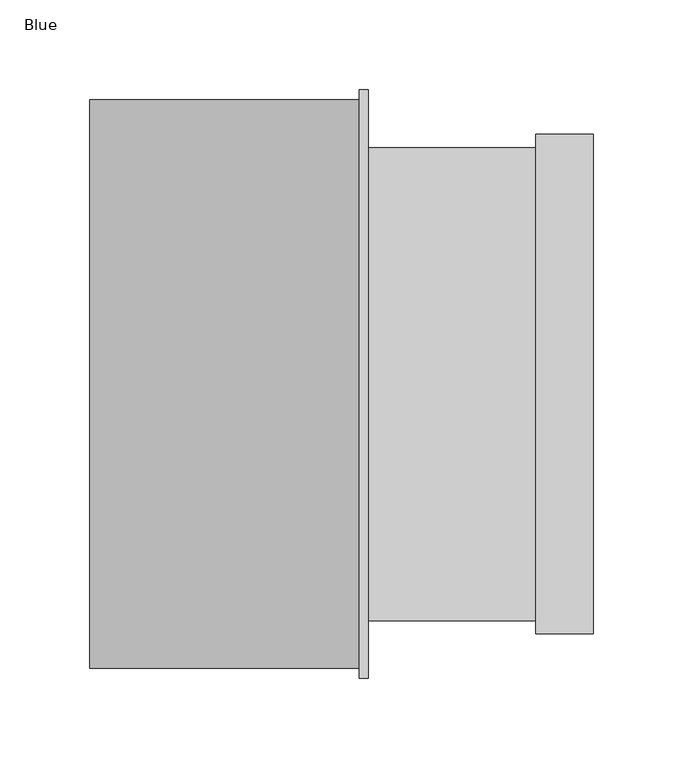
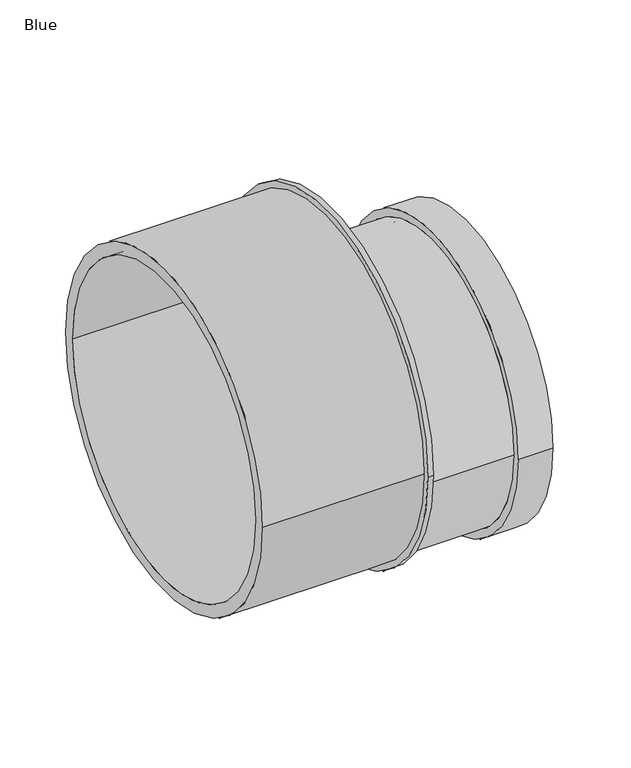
"""IFC4 building model written with IfcOpenShell, lengths in millimetres: pipe fitting geometry, AWADUKT PP Transition : Blue."""

from ifc_helpers import new_model, si_unit, point, frame, frame_2d, origin, origin_2d, place, context, project, spatial, polyline, circle_curve, trimmed, segment, composite_curve, outline, extrude, source, transform, mapped, element, save
from ifc_brep_helpers import plane_surface, cylinder_surface, revolved_surface, advanced_brep


def blue_93814ad8(model_context):
    return source(origin(), model_context, "Body", "SolidModel", [
        extrude(outline(composite_curve([segment(trimmed(circle_curve(origin_2d(), 163.65), [point((-163.65, 0.0))], [point((163.65, 0.0))], False, "CARTESIAN"), True, "CONTINUOUS"), segment(trimmed(circle_curve(origin_2d(), 163.65), [point((163.65, 0.0))], [point((-163.65, 0.0))], False, "CARTESIAN"), True, "CONTINUOUS")], self_intersect=False), holes=[composite_curve([segment(trimmed(circle_curve(frame_2d((0.0, -31.7)), 116.4), [point((-116.4, -31.7))], [point((116.4, -31.7))], True, "CARTESIAN"), True, "CONTINUOUS"), segment(trimmed(circle_curve(frame_2d((0.0, -31.7)), 116.4), [point((116.4, -31.7))], [point((-116.4, -31.7))], True, "CARTESIAN"), True, "CONTINUOUS")], self_intersect=False)]), frame((157.0, 0.0, 0.0), z_axis=(1.0, 0.0, 0.0), x_axis=(0.0, 1.0, 0.0)), (0.0, 0.0, 1.0), 5.0),
        advanced_brep(
        [(255.0, -131.6, -31.7), (255.0, 131.6, -31.7), (162.0, 131.6, -31.7), (162.0, -131.6, -31.7), (287.0, -138.9, -31.7), (287.0, 138.9, -31.7), (255.0, 138.9, -31.7), (255.0, -138.9, -31.7), (280.4, -125.0, -31.7), (280.4, 125.0, -31.7), (287.0, 125.0, -31.7), (287.0, -125.0, -31.7), (261.6, -131.6, -31.7), (261.6, 131.6, -31.7), (280.4, 131.6, -31.7), (280.4, -131.6, -31.7), (162.0, -125.0, -31.7), (162.0, 125.0, -31.7), (261.6, 125.0, -31.7), (261.6, -125.0, -31.7)],
        [
            (0, 1, circle_curve(frame((255.0, 0.0, -31.7), z_axis=(-1.0, 0.0, 0.0), x_axis=(0.0, 1.0, 0.0)), 131.6)),
            (1, 2),
            (2, 3, circle_curve(frame((162.0, 0.0, -31.7), z_axis=(1.0, 0.0, 0.0), x_axis=(0.0, 1.0, 0.0)), 131.6)),
            (3, 0),
            (4, 5, circle_curve(frame((287.0, 0.0, -31.7), z_axis=(-1.0, 0.0, 0.0), x_axis=(0.0, 1.0, 0.0)), 138.9)),
            (5, 6),
            (6, 7, circle_curve(frame((255.0, 0.0, -31.7), z_axis=(1.0, 0.0, 0.0), x_axis=(0.0, 1.0, 0.0)), 138.9)),
            (7, 4),
            (8, 9, circle_curve(frame((280.4, 0.0, -31.7), z_axis=(-1.0, 0.0, 0.0), x_axis=(0.0, 1.0, 0.0)), 125.0)),
            (9, 10),
            (10, 11, circle_curve(frame((287.0, 0.0, -31.7), z_axis=(1.0, 0.0, 0.0), x_axis=(0.0, 1.0, 0.0)), 125.0)),
            (11, 8),
            (12, 13, circle_curve(frame((261.6, 0.0, -31.7), z_axis=(-1.0, 0.0, 0.0), x_axis=(0.0, 1.0, 0.0)), 131.6)),
            (13, 14),
            (14, 15, circle_curve(frame((280.4, 0.0, -31.7), z_axis=(1.0, 0.0, 0.0), x_axis=(0.0, 1.0, 0.0)), 131.6)),
            (15, 12),
            (16, 17, circle_curve(frame((162.0, 0.0, -31.7), z_axis=(-1.0, 0.0, 0.0), x_axis=(0.0, 1.0, 0.0)), 125.0)),
            (17, 18),
            (18, 19, circle_curve(frame((261.6, 0.0, -31.7), z_axis=(1.0, 0.0, 0.0), x_axis=(0.0, 1.0, 0.0)), 125.0)),
            (19, 16),
            (2, 3, circle_curve(frame((162.0, 0.0, -31.7), z_axis=(-1.0, 0.0, 0.0), x_axis=(0.0, -1.0, 0.0)), 131.6)),
            (16, 17, circle_curve(frame((162.0, 0.0, -31.7), z_axis=(1.0, 0.0, 0.0), x_axis=(0.0, -1.0, 0.0)), 125.0)),
            (1, 0, circle_curve(frame((255.0, 0.0, -31.7), z_axis=(-1.0, 0.0, 0.0), x_axis=(0.0, -1.0, 0.0)), 131.6)),
            (6, 7, circle_curve(frame((255.0, 0.0, -31.7), z_axis=(-1.0, 0.0, 0.0), x_axis=(0.0, -1.0, 0.0)), 138.9)),
            (5, 4, circle_curve(frame((287.0, 0.0, -31.7), z_axis=(-1.0, 0.0, 0.0), x_axis=(0.0, -1.0, 0.0)), 138.9)),
            (10, 11, circle_curve(frame((287.0, 0.0, -31.7), z_axis=(-1.0, 0.0, 0.0), x_axis=(0.0, -1.0, 0.0)), 125.0)),
            (9, 8, circle_curve(frame((280.4, 0.0, -31.7), z_axis=(-1.0, 0.0, 0.0), x_axis=(0.0, -1.0, 0.0)), 125.0)),
            (14, 15, circle_curve(frame((280.4, 0.0, -31.7), z_axis=(-1.0, 0.0, 0.0), x_axis=(0.0, -1.0, 0.0)), 131.6)),
            (13, 12, circle_curve(frame((261.6, 0.0, -31.7), z_axis=(-1.0, 0.0, 0.0), x_axis=(0.0, -1.0, 0.0)), 131.6)),
            (18, 19, circle_curve(frame((261.6, 0.0, -31.7), z_axis=(-1.0, 0.0, 0.0), x_axis=(0.0, -1.0, 0.0)), 125.0)),
        ],
        [
            cylinder_surface(frame((162.0, 0.0, -31.7), z_axis=(1.0, 0.0, 0.0), x_axis=(0.0, 1.0, 0.0)), 131.6),
            cylinder_surface(frame((162.0, 0.0, -31.7), z_axis=(1.0, 0.0, 0.0), x_axis=(0.0, 1.0, 0.0)), 138.9),
            revolved_surface(polyline([(287.0, 125.0, -31.7), (280.4, 125.0, -31.7)]), (162.0, 0.0, -31.7), (1.0, 0.0, 0.0)),
            revolved_surface(polyline([(280.4, 131.6, -31.7), (261.6, 131.6, -31.7)]), (162.0, 0.0, -31.7), (1.0, 0.0, 0.0)),
            revolved_surface(polyline([(261.6, 125.0, -31.7), (162.0, 125.0, -31.7)]), (162.0, 0.0, -31.7), (1.0, 0.0, 0.0)),
            plane_surface(frame((162.0, 0.0, -31.7), z_axis=(-1.0, 0.0, 0.0), x_axis=(0.0, -1.0, 0.0))),
            cylinder_surface(frame((162.0, 0.0, -31.7), z_axis=(1.0, 0.0, 0.0), x_axis=(0.0, -1.0, 0.0)), 131.6),
            plane_surface(frame((255.0, 0.0, -31.7), z_axis=(-1.0, 0.0, 0.0), x_axis=(0.0, -1.0, 0.0))),
            cylinder_surface(frame((162.0, 0.0, -31.7), z_axis=(1.0, 0.0, 0.0), x_axis=(0.0, -1.0, 0.0)), 138.9),
            plane_surface(frame((287.0, 0.0, -31.7), z_axis=(1.0, 0.0, 0.0), x_axis=(0.0, -1.0, 0.0))),
            revolved_surface(polyline([(287.0, -125.0, -31.7), (280.4, -125.0, -31.7)]), (162.0, 0.0, -31.7), (1.0, 0.0, 0.0)),
            plane_surface(frame((280.4, 0.0, -31.7), z_axis=(-1.0, 0.0, 0.0), x_axis=(0.0, -1.0, 0.0))),
            revolved_surface(polyline([(280.4, -131.6, -31.7), (261.6, -131.6, -31.7)]), (162.0, 0.0, -31.7), (1.0, 0.0, 0.0)),
            plane_surface(frame((261.6, 0.0, -31.7), z_axis=(1.0, 0.0, 0.0), x_axis=(0.0, -1.0, 0.0))),
            revolved_surface(polyline([(261.6, -125.0, -31.7), (162.0, -125.0, -31.7)]), (162.0, 0.0, -31.7), (1.0, 0.0, 0.0)),
        ],
        [
            (0, [[1, 2, 3, 4]]),
            (1, [[5, 6, 7, 8]]),
            (2, [[9, 10, 11, 12]]),
            (3, [[13, 14, 15, 16]]),
            (4, [[17, 18, 19, 20]]),
            (5, [[21, -3], [22, -17]]),
            (6, [[23, -4, -21, -2]]),
            (7, [[24, -7], [-23, -1]]),
            (8, [[25, -8, -24, -6]]),
            (9, [[-25, -5], [26, -11]]),
            (10, [[27, -12, -26, -10]]),
            (11, [[28, -15], [-27, -9]]),
            (12, [[29, -16, -28, -14]]),
            (13, [[-29, -13], [30, -19]]),
            (14, [[-22, -20, -30, -18]]),
        ],
    ),
        extrude(outline(composite_curve([segment(trimmed(circle_curve(origin_2d(), 158.1), [point((-158.1, 0.0))], [point((158.1, 0.0))], False, "CARTESIAN"), True, "CONTINUOUS"), segment(trimmed(circle_curve(origin_2d(), 158.1), [point((158.1, 0.0))], [point((-158.1, 0.0))], False, "CARTESIAN"), True, "CONTINUOUS")], self_intersect=False), holes=[composite_curve([segment(trimmed(circle_curve(origin_2d(), 146.7), [point((146.7, 0.0))], [point((-146.7, 0.0))], True, "CARTESIAN"), True, "CONTINUOUS"), segment(trimmed(circle_curve(origin_2d(), 146.7), [point((-146.7, 0.0))], [point((146.7, 0.0))], True, "CARTESIAN"), True, "CONTINUOUS")], self_intersect=False)]), frame((7.0, 0.0, 0.0), z_axis=(1.0, 0.0, 0.0), x_axis=(0.0, 1.0, 0.0)), (0.0, 0.0, 1.0), 150.0),
    ])


if __name__ == "__main__":
    model = new_model("IFC4")
    model_context = context("Model", 3, world=origin())
    ifc_project = project(units=[si_unit("LENGTHUNIT", "METRE", prefix="MILLI")], contexts=[model_context])
    site = spatial("IfcSite", under=ifc_project)
    building = spatial("IfcBuilding", under=site)
    placement = place(None, origin())
    blue_shape = blue_93814ad8(model_context)
    element("IfcPipeFitting", 1, ObjectType="AWADUKT PP Transition : Blue", at=placement, inside=building, context=model_context, shape_type="MappedRepresentation", body=[
        mapped(blue_shape, transform((0.0, 0.0, 0.0), x_axis=(1.0, 0.0, 0.0), y_axis=(0.0, 1.0, 0.0), z_axis=(0.0, 0.0, 1.0))),
    ])
    save(model, "model.ifc")
